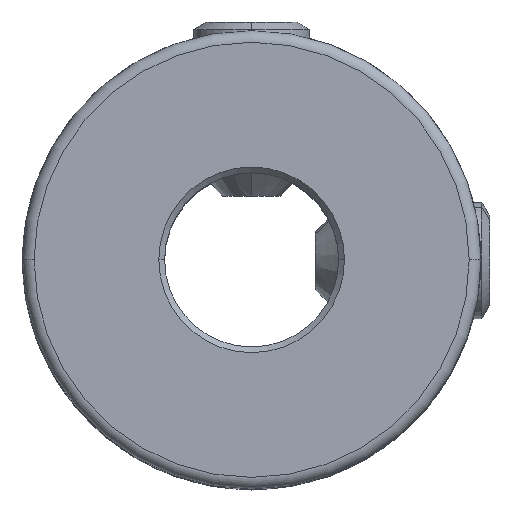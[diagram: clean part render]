
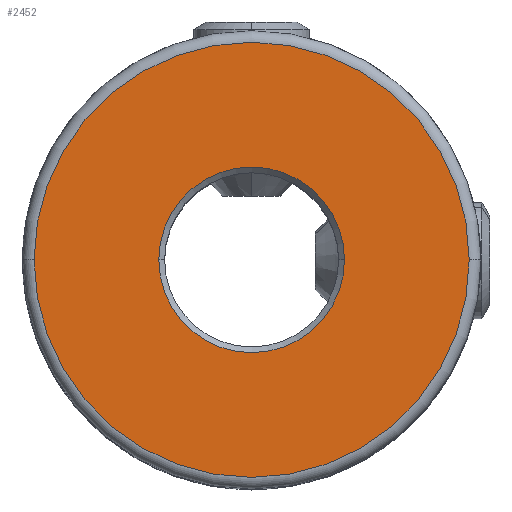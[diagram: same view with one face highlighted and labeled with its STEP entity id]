
A CAD part, top view. The second image highlights one B-rep face of the part: STEP entity #2452.
In plain terms, the highlighted planar face has unit normal (0, 0, 1).
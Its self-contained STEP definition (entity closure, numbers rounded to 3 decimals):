
#8 = FACE_BOUND ( 'NONE', #2357, .T. ) ;
#103 = DIRECTION ( 'NONE',  ( 0., 0., 1. ) ) ;
#126 = DIRECTION ( 'NONE',  ( 1., 0., 0. ) ) ;
#389 = DIRECTION ( 'NONE',  ( 0., 0., 1. ) ) ;
#464 = CARTESIAN_POINT ( 'NONE',  ( -252.52, 28.449, 4.9 ) ) ;
#655 = EDGE_CURVE ( 'NONE', #1540, #691, #4425, .T. ) ;
#691 = VERTEX_POINT ( 'NONE', #2133 ) ;
#788 = CARTESIAN_POINT ( 'NONE',  ( -252.52, 28.449, 4.9 ) ) ;
#1126 = DIRECTION ( 'NONE',  ( 1., 0., 0. ) ) ;
#1218 = CARTESIAN_POINT ( 'NONE',  ( -252.52, 28.449, 4.9 ) ) ;
#1294 = CIRCLE ( 'NONE', #3729, 1.6 ) ;
#1325 = CARTESIAN_POINT ( 'NONE',  ( -256.27, 28.449, 4.9 ) ) ;
#1408 = ORIENTED_EDGE ( 'NONE', *, *, #1962, .T. ) ;
#1540 = VERTEX_POINT ( 'NONE', #4471 ) ;
#1571 = DIRECTION ( 'NONE',  ( 1., 0., 0. ) ) ;
#1695 = ORIENTED_EDGE ( 'NONE', *, *, #655, .T. ) ;
#1962 = EDGE_CURVE ( 'NONE', #2013, #4499, #3216, .T. ) ;
#1965 = AXIS2_PLACEMENT_3D ( 'NONE', #1218, #389, #1571 ) ;
#2013 = VERTEX_POINT ( 'NONE', #4416 ) ;
#2023 = PLANE ( 'NONE',  #1965 ) ;
#2133 = CARTESIAN_POINT ( 'NONE',  ( -250.92, 28.449, 4.9 ) ) ;
#2351 = DIRECTION ( 'NONE',  ( 0., 0., -1. ) ) ;
#2357 = EDGE_LOOP ( 'NONE', ( #3353, #1695 ) ) ;
#2452 = ADVANCED_FACE ( 'NONE', ( #2897, #8 ), #2023, .T. ) ;
#2483 = DIRECTION ( 'NONE',  ( 0., 0., 1. ) ) ;
#2499 = DIRECTION ( 'NONE',  ( 0., 0., -1. ) ) ;
#2564 = CARTESIAN_POINT ( 'NONE',  ( -252.52, 28.449, 4.9 ) ) ;
#2639 = CIRCLE ( 'NONE', #4970, 3.75 ) ;
#2897 = FACE_OUTER_BOUND ( 'NONE', #4712, .T. ) ;
#3216 = CIRCLE ( 'NONE', #3711, 3.75 ) ;
#3267 = DIRECTION ( 'NONE',  ( 1., 0., 0. ) ) ;
#3353 = ORIENTED_EDGE ( 'NONE', *, *, #3376, .T. ) ;
#3376 = EDGE_CURVE ( 'NONE', #691, #1540, #1294, .T. ) ;
#3678 = DIRECTION ( 'NONE',  ( 1., 0., 0. ) ) ;
#3711 = AXIS2_PLACEMENT_3D ( 'NONE', #4745, #103, #3267 ) ;
#3729 = AXIS2_PLACEMENT_3D ( 'NONE', #788, #2351, #1126 ) ;
#3794 = AXIS2_PLACEMENT_3D ( 'NONE', #2564, #2499, #3678 ) ;
#3912 = ORIENTED_EDGE ( 'NONE', *, *, #4614, .T. ) ;
#4416 = CARTESIAN_POINT ( 'NONE',  ( -248.77, 28.449, 4.9 ) ) ;
#4425 = CIRCLE ( 'NONE', #3794, 1.6 ) ;
#4471 = CARTESIAN_POINT ( 'NONE',  ( -254.12, 28.449, 4.9 ) ) ;
#4499 = VERTEX_POINT ( 'NONE', #1325 ) ;
#4614 = EDGE_CURVE ( 'NONE', #4499, #2013, #2639, .T. ) ;
#4712 = EDGE_LOOP ( 'NONE', ( #1408, #3912 ) ) ;
#4745 = CARTESIAN_POINT ( 'NONE',  ( -252.52, 28.449, 4.9 ) ) ;
#4970 = AXIS2_PLACEMENT_3D ( 'NONE', #464, #2483, #126 ) ;
